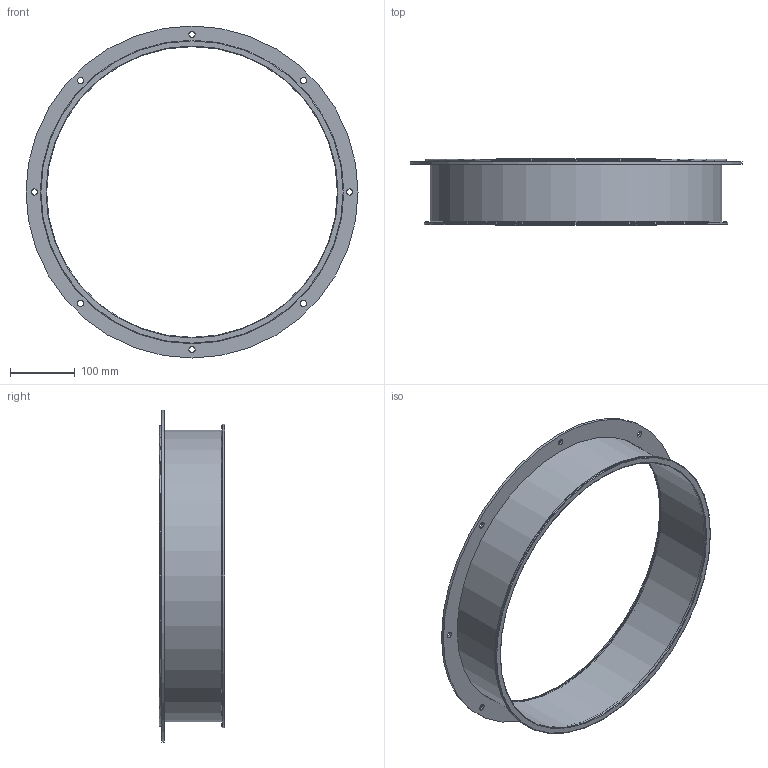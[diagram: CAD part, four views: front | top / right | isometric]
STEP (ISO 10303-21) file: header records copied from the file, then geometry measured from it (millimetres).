
FILE_DESCRIPTION(/* description */ (''),/* implementation_level */ '2;1');
FILE_NAME(/* name */ 'METU_EA109-41B_450_L100.stp',/* time_stamp */ '2018-10-10T11:44:11+02:00',/* author */ (''),/* organization */ (''),/* preprocessor_version */ 'ST-DEVELOPER v11',/* originating_system */ 'SIEMENS UGS NX 6.0',/* authorisation */ '');
FILE_SCHEMA (('CONFIG_CONTROL_DESIGN'));
Length unit declared in the file: millimetre
Products named in the file (1): garsCF17ddtq
Bounding box: 514 x 101.5 x 514 mm (x, y, z)
Volume: 417511.2 mm3; surface area: 471191.5 mm2
Topology: 3 solids, 3 shells, 32 faces, 76 edges, 53 vertices
Faces by surface type: cylinder 17, plane 9, torus 5, cone 1
Full cylindrical faces by diameter (mm): 9.5 x8, 450 x2, 452 x2, 454 x1, 462 x2, 470 x1, 514 x1
Entity records: 850 total; most frequent: DIRECTION 146, CARTESIAN_POINT 113, FACE_BOUND 80, EDGE_LOOP 80, ORIENTED_EDGE 80, AXIS2_PLACEMENT_3D 73, VERTEX_POINT 40, EDGE_CURVE 40
